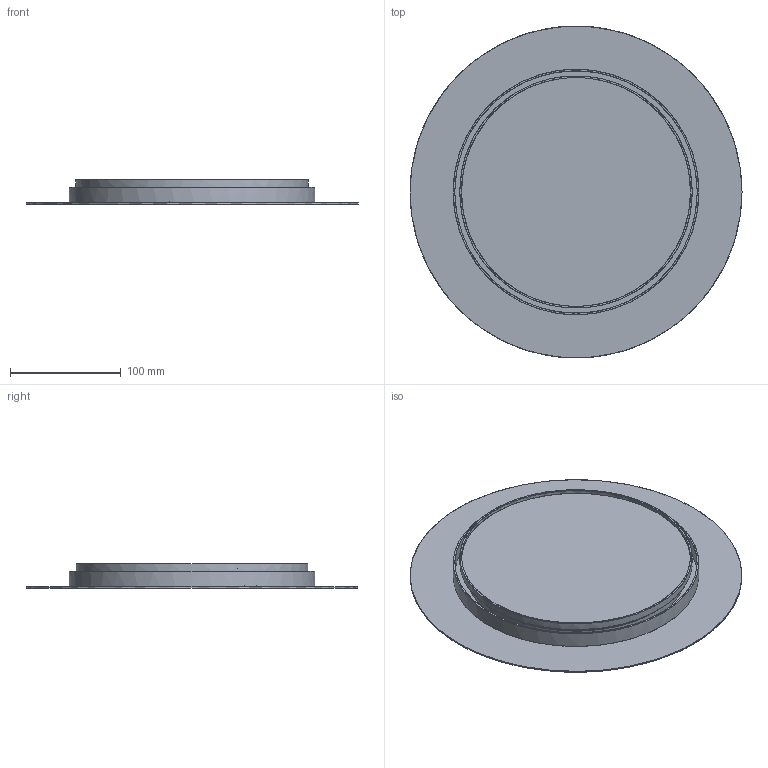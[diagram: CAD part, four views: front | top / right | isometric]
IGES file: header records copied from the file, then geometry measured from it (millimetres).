
Start section: SolidWorks IGES file using NURBS representation for surfaces
Global section: file name: Z:\Modele 3D_WWW\_CAMELEON\PUSZKI WWW\CAMELEON-CANOPY_A_8566_8564_8565_8563\CANOPY_A_8566_8564_8565_8563.IGS; native system: SolidWorks 2021; preprocessor: SolidWorks 2021; author: gabriela.tworek; date: 220225.144335; units: millimetre
Bounding box: 300 x 299.62 x 21.81 mm (x, y, z)
Surface area: 333332.8 mm2 (no closed solid volume)
Topology: 0 solids, 0 shells, 23 faces, 90 edges, 80 vertices
Faces by surface type: bspline 23
